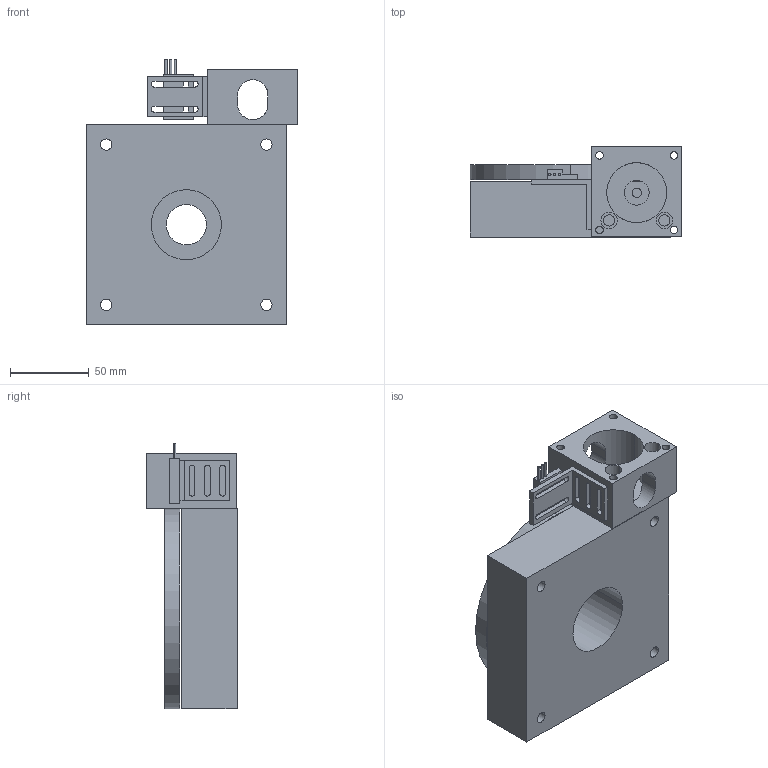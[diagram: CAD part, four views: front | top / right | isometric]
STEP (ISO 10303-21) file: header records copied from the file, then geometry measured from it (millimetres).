
FILE_DESCRIPTION((''),'2;1');
FILE_NAME('E5-ROTARY_ASM','2005-02-18T',('BF20108'),(''),'PRO/ENGINEER BY PARAMETRIC TECHNOLOGY CORPORATION, 2004400','PRO/ENGINEER BY PARAMETRIC TECHNOLOGY CORPORATION, 2004400','');
FILE_SCHEMA(('CONFIG_CONTROL_DESIGN'));
Products named in the file (7): E5RO-BASE; E5RO-TOP; E23-MB-02; 000-4457-SW-BRKT; 003-1145-SWITCH; ROTARY-TBL-HOME-SW_ASM; E5-ROTARY_ASM
Assembly tree (6 placements, depth 3):
  E5-ROTARY_ASM
    E5RO-BASE
    E5RO-TOP
    E23-MB-02
    ROTARY-TBL-HOME-SW_ASM
      000-4457-SW-BRKT
      003-1145-SWITCH
Bounding box: 134.18 x 57.31 x 168.49 mm (x, y, z)
Volume: 688047.1 mm3; surface area: 113923.1 mm2
Topology: 5 solids, 5 shells, 143 faces, 370 edges, 246 vertices
Faces by surface type: cylinder 84, plane 59
Entity records: 4819 total; most frequent: CARTESIAN_POINT 850, DIRECTION 846, ORIENTED_EDGE 740, EDGE_CURVE 370, AXIS2_PLACEMENT_3D 324, VERTEX_POINT 246, EDGE_LOOP 212, VECTOR 198
